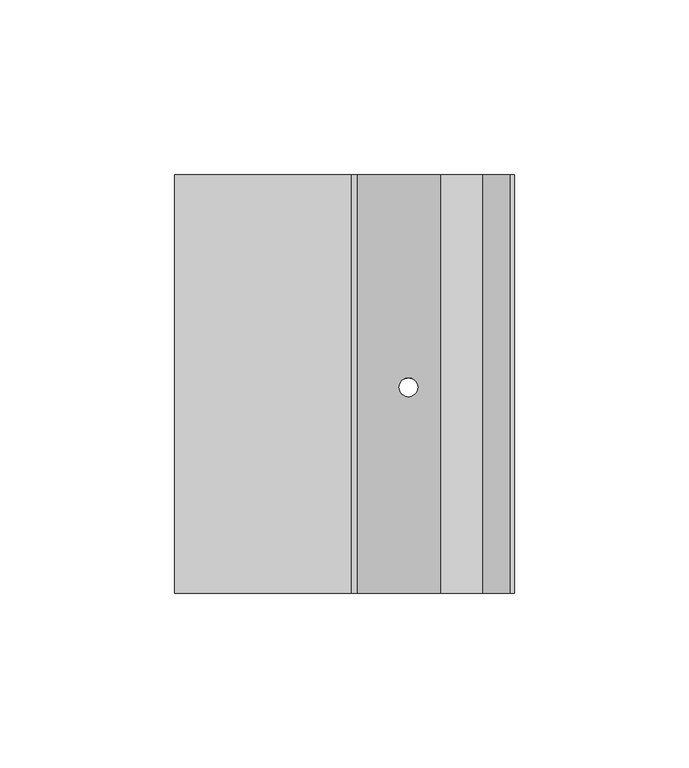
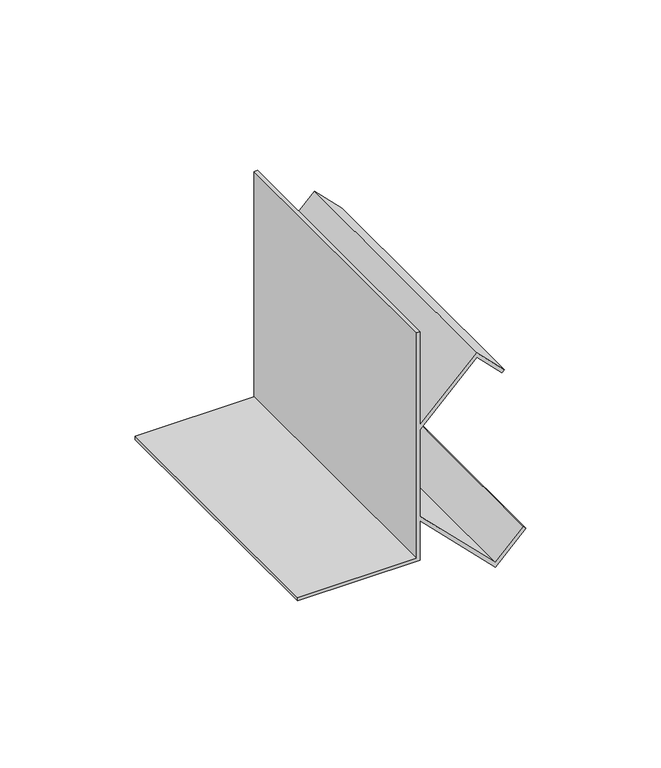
"""IFC4 building model written with IfcOpenShell, lengths in millimetres: proxy geometry, Mechanical Fittings & Accessories33 : Mechanical Fittings & Accessories."""

import ifcopenshell
import ifcopenshell.guid

model = None  # the IFC model being written
_history = None  # IfcOwnerHistory: only IFC2X3 demands one
_inside = {}  # id of a spatial element -> (the spatial element, [elements in it])
_under = {}  # id of a project, library or spatial element -> (it, [spatial elements below it])
_declared = {}  # id of a project -> (the project, [libraries it declares])
_typed = {}  # id of a type object -> (the type object, [elements of that type])
_made_of = {}  # id of a material, layer set ... -> (it, [elements and type objects made of it])


def new_model(schema):
    """Start an empty IFC model of exactly this schema.

    Asked for "IFC4X3", IfcOpenShell would pick the latest addendum, in which some entities
    have other attributes; the version numbers below select the first issue.
    IFC2X3 requires an IfcOwnerHistory on every rooted entity: one is made here for all.
    """
    global model, _history
    if schema == "IFC4X3":
        model = ifcopenshell.file(schema_version=(4, 3, 0, 0))
    else:
        model = ifcopenshell.file(schema=schema)
    _inside.clear()
    _under.clear()
    _declared.clear()
    _typed.clear()
    _made_of.clear()
    _history = None
    if model.schema == "IFC2X3":
        org = make("IfcOrganization", Name="unknown")
        user = make(
            "IfcPersonAndOrganization",
            ThePerson=make("IfcPerson", FamilyName="unknown"),
            TheOrganization=org,
        )
        app = make(
            "IfcApplication",
            ApplicationDeveloper=org,
            Version="unknown",
            ApplicationFullName="unknown",
            ApplicationIdentifier="unknown",
        )
        _history = make(
            "IfcOwnerHistory",
            OwningUser=user,
            OwningApplication=app,
            ChangeAction="ADDED",
            CreationDate=0,
        )
    return model


def make(cls, **values):
    """One entity of the class cls with the attributes given. An attribute that is None is left unset."""
    return model.create_entity(
        cls, **{name: value for name, value in values.items() if value is not None}
    )


def rooted(cls, **values):
    """An entity with a GlobalId (a new one), such as an element, a storey or a relation."""
    return make(cls, GlobalId=ifcopenshell.guid.new(), OwnerHistory=_history, **values)


def si_unit(unit_type, name, prefix=None):
    """IfcSIUnit, for example si_unit("LENGTHUNIT", "METRE", prefix="MILLI")."""
    return make("IfcSIUnit", UnitType=unit_type, Prefix=prefix, Name=name)


def assignment(units):
    """IfcUnitAssignment: the units of a project."""
    return None if units is None else make("IfcUnitAssignment", Units=units)


def point(xyz):
    """IfcCartesianPoint."""
    return None if xyz is None else make("IfcCartesianPoint", Coordinates=xyz)


def direction(xyz):
    """IfcDirection."""
    return None if xyz is None else make("IfcDirection", DirectionRatios=xyz)


def frame(location, z_axis=None, x_axis=None):
    """IfcAxis2Placement3D, a coordinate frame: its origin and axes. An axis left out is left unset."""
    return make(
        "IfcAxis2Placement3D",
        Location=point(location),
        Axis=direction(z_axis),
        RefDirection=direction(x_axis),
    )


def origin():
    """The frame at (0, 0, 0) with its axes left unset."""
    return frame((0.0, 0.0, 0.0))


def place(relative_to, where):
    """IfcLocalPlacement: puts the frame where relative to a parent placement (None: the world)."""
    return make(
        "IfcLocalPlacement", PlacementRelTo=relative_to, RelativePlacement=where
    )


def context(
    kind, dimensions, precision=None, world=None, true_north=None, identifier=None
):
    """IfcGeometricRepresentationContext, for example the 3D "Model" context."""
    return make(
        "IfcGeometricRepresentationContext",
        ContextIdentifier=identifier,
        ContextType=kind,
        CoordinateSpaceDimension=dimensions,
        Precision=precision,
        WorldCoordinateSystem=world,
        TrueNorth=true_north,
    )


def project(units=None, contexts=None):
    """IfcProject with its units and contexts."""
    return rooted(
        "IfcProject",
        Name="project",
        RepresentationContexts=contexts,
        UnitsInContext=assignment(units),
    )


def spatial(cls, under=None, at=None, **own):
    """A site, building, storey or space (cls), placed at a placement, below another one or the project."""
    s = rooted(cls, ObjectPlacement=at, **own)
    if under is not None:
        _under.setdefault(under.id(), (under, []))[1].append(s)
    return s


def polyline(points):
    """IfcPolyline through the points."""
    return make("IfcPolyline", Points=[point(p) for p in points])


def ellipse_curve(where, semi_axis1, semi_axis2):
    """IfcEllipse in the frame where."""
    return make(
        "IfcEllipse", Position=where, SemiAxis1=semi_axis1, SemiAxis2=semi_axis2
    )


def shape(context_of_items, identifier, shape_type, items):
    """IfcShapeRepresentation: the items that make up one representation, for example the "Body"."""
    return make(
        "IfcShapeRepresentation",
        ContextOfItems=context_of_items,
        RepresentationIdentifier=identifier,
        RepresentationType=shape_type,
        Items=items,
    )


def source(mapping_origin, context_of_items, identifier, shape_type, items):
    """IfcRepresentationMap: a shape defined once, which mapped items show again and again."""
    return make(
        "IfcRepresentationMap",
        MappingOrigin=mapping_origin,
        MappedRepresentation=shape(context_of_items, identifier, shape_type, items),
    )


def transform(
    local_origin,
    x_axis=None,
    y_axis=None,
    z_axis=None,
    scale=None,
    scale2=None,
    scale3=None,
    uniform=True,
):
    """IfcCartesianTransformationOperator3D, or its non-uniform kind. x_axis, y_axis, z_axis: its Axis1, 2, 3."""
    if uniform:
        return make(
            "IfcCartesianTransformationOperator3D",
            Axis1=direction(x_axis),
            Axis2=direction(y_axis),
            LocalOrigin=point(local_origin),
            Scale=scale,
            Axis3=direction(z_axis),
        )
    return make(
        "IfcCartesianTransformationOperator3DnonUniform",
        Axis1=direction(x_axis),
        Axis2=direction(y_axis),
        LocalOrigin=point(local_origin),
        Scale=scale,
        Axis3=direction(z_axis),
        Scale2=scale2,
        Scale3=scale3,
    )


def mapped(mapping_source, mapping_target):
    """IfcMappedItem: shows the shape of a source again, moved by a transform."""
    return make(
        "IfcMappedItem", MappingSource=mapping_source, MappingTarget=mapping_target
    )


def made_of(thing, what):
    """Note that an element or type object is made of a material, layer set ...; save() writes the relation."""
    if what is not None:
        _made_of.setdefault(what.id(), (what, []))[1].append(thing)
    return thing


def element(
    cls,
    number,
    at=None,
    inside=None,
    cuts=None,
    type_object=None,
    material=None,
    context=None,
    identifier="Body",
    shape_type=None,
    held_by="IfcProductDefinitionShape",
    body=None,
    shapes=None,
    **own,
):
    """One element of the class cls, such as IfcWall. Its Tag is "e" and its number.

    at: its placement. inside: the storey or other place that contains it. cuts: it is an
    opening in that element (IfcRelVoidsElement). A single representation is given by context,
    identifier, shape_type and body (its items); several are given by shapes. held_by: the class
    of the entity that holds the representations. save() writes the other relations.
    """
    e = rooted(cls, Tag="e%d" % number, ObjectPlacement=at, **own)
    if body is not None:
        shapes = [shape(context, identifier, shape_type, body)]
    if shapes is not None:
        e.Representation = make(held_by, Representations=shapes)
    if inside is not None:
        _inside.setdefault(inside.id(), (inside, []))[1].append(e)
    if cuts is not None:
        rooted(
            "IfcRelVoidsElement", RelatingBuildingElement=cuts, RelatedOpeningElement=e
        )
    if type_object is not None:
        _typed.setdefault(type_object.id(), (type_object, []))[1].append(e)
    return made_of(e, material)


def aggregate(whole, parts):
    """IfcRelAggregates: a whole, such as a stair, and the parts it consists of."""
    return rooted("IfcRelAggregates", RelatingObject=whole, RelatedObjects=parts)


def save(model, path):
    """Write the relations noted so far, then the file.

    IfcRelAggregates (storeys below a building ...), IfcRelContainedInSpatialStructure (elements
    in a storey), IfcRelDefinesByType, IfcRelAssociatesMaterial and IfcRelDeclares: one each for
    every whole, place, type object, material and project.
    """
    for whole, parts in _under.values():
        aggregate(whole, parts)
    for where, things in _inside.values():
        rooted(
            "IfcRelContainedInSpatialStructure",
            RelatedElements=things,
            RelatingStructure=where,
        )
    for kind, things in _typed.values():
        rooted("IfcRelDefinesByType", RelatedObjects=things, RelatingType=kind)
    for what, things in _made_of.values():
        rooted("IfcRelAssociatesMaterial", RelatedObjects=things, RelatingMaterial=what)
    for by, libraries in _declared.values():
        rooted("IfcRelDeclares", RelatingContext=by, RelatedDefinitions=libraries)
    model.write(path)


def plane_surface(at):
    """IfcPlane: the flat surface through the origin of the frame at, square to its z axis."""
    return make("IfcPlane", Position=at)


def revolved_surface(curve, axis_point, axis_direction):
    """IfcSurfaceOfRevolution: the curve turned about the line through axis_point along axis_direction."""
    return make(
        "IfcSurfaceOfRevolution",
        SweptCurve=make("IfcArbitraryOpenProfileDef", ProfileType="CURVE", Curve=curve),
        AxisPosition=make("IfcAxis1Placement", Location=point(axis_point), Axis=direction(axis_direction)),
    )


def advanced_brep(points, edges, surfaces, faces):
    """IfcAdvancedBrep: a solid bounded by faces that lie on surfaces and meet in shared edges.

    An edge is (start, end): straight between two places in points (the first is 0);
    or (start, end, curve); or (start, end, curve, False) where it runs against its curve.
    A face is (place in surfaces, loops), or (place, loops, False) where it looks against
    its surface's normal. A loop lists edges by number (the first is 1), with a minus sign
    where the edge is run from its end to its start. The first loop is the outer one.
    """
    corners = [point(p) for p in points]
    vertices = [make("IfcVertexPoint", VertexGeometry=c) for c in corners]
    made = []
    for start, end, *more in edges:
        made.append(
            make(
                "IfcEdgeCurve",
                EdgeStart=vertices[start],
                EdgeEnd=vertices[end],
                EdgeGeometry=more[0] if more else make("IfcPolyline", Points=[corners[start], corners[end]]),
                SameSense=more[1] if len(more) > 1 else True,
            )
        )
    hull = []
    for where, loops, *sense in faces:
        bounds = []
        for j, loop in enumerate(loops):
            ring = [make("IfcOrientedEdge", EdgeElement=made[abs(k) - 1], Orientation=k > 0) for k in loop]
            bounds.append(
                make(
                    "IfcFaceOuterBound" if j == 0 else "IfcFaceBound",
                    Bound=make("IfcEdgeLoop", EdgeList=ring),
                    Orientation=True,
                )
            )
        hull.append(make("IfcAdvancedFace", Bounds=bounds, FaceSurface=surfaces[where], SameSense=sense[0] if sense else True))
    return make("IfcAdvancedBrep", Outer=make("IfcClosedShell", CfsFaces=hull))


def generic_models_ac5d71cc(model_context):
    return source(origin(), model_context, "Body", "AdvancedBrep", [
        advanced_brep(
        [(-14670.9639562, 3322.4963986, 4114.8), (-14721.7639562, 3322.4963986, 4114.8), (-14721.7639562, 3322.4963986, 4113.3117188), (-14669.475675, 3322.4963986, 4113.3117188), (-14669.475675, 3322.4963986, 4131.1383509), (-14637.365914, 3322.4963986, 4099.0285899), (-14624.3869427, 3322.4963986, 4112.0075612), (-14625.4393164, 3322.4963986, 4113.059935), (-14637.365914, 3322.4963986, 4101.1333374), (-14669.475675, 3322.4963986, 4133.2430984), (-14669.475675, 3322.4963986, 4172.2761118), (-14645.303414, 3322.4963986, 4196.4483729), (-14634.5674414, 3322.4963986, 4185.7124003), (-14633.5150677, 3322.4963986, 4186.7647741), (-14645.303414, 3322.4963986, 4198.5531204), (-14669.475675, 3322.4963986, 4174.3808594), (-14669.475675, 3322.4963986, 4216.4), (-14670.9639562, 3322.4963986, 4216.4), (-14670.9639562, 3442.4645457, 4114.8), (-14670.9639562, 3442.4645457, 4216.4), (-14669.475675, 3442.4645457, 4216.4), (-14669.475675, 3442.4645457, 4174.3808594), (-14645.303414, 3442.4645457, 4198.5531204), (-14633.5150677, 3442.4645457, 4186.7647741), (-14634.5674414, 3442.4645457, 4185.7124003), (-14645.303414, 3442.4645457, 4196.4483729), (-14669.475675, 3442.4645457, 4172.2761118), (-14669.475675, 3442.4645457, 4133.2430984), (-14637.365914, 3442.4645457, 4101.1333374), (-14625.4393164, 3442.4645457, 4113.059935), (-14624.3869427, 3442.4645457, 4112.0075612), (-14637.365914, 3442.4645457, 4099.0285899), (-14669.475675, 3442.4645457, 4131.1383509), (-14669.475675, 3442.4645457, 4113.3117188), (-14721.7639562, 3442.4645457, 4113.3117188), (-14721.7639562, 3442.4645457, 4114.8), (-14657.3617646, 3381.5191481, 4119.0244406), (-14652.0223978, 3381.5191481, 4113.6850737), (-14652.0223978, 3381.5191481, 4115.7898213), (-14657.3617646, 3381.5191481, 4121.1291881), (-14657.3617646, 3381.5191481, 4184.3900222), (-14652.0223978, 3381.5191481, 4189.729389), (-14652.0223978, 3381.5191481, 4191.8341365), (-14657.3617646, 3381.5191481, 4186.4947697)],
        [
            (0, 1),
            (1, 2),
            (2, 3),
            (3, 4),
            (4, 5),
            (5, 6),
            (6, 7),
            (7, 8),
            (8, 9),
            (9, 10),
            (10, 11),
            (11, 12),
            (12, 13),
            (13, 14),
            (14, 15),
            (15, 16),
            (16, 17),
            (17, 0),
            (18, 19),
            (19, 20),
            (20, 21),
            (21, 22),
            (22, 23),
            (23, 24),
            (24, 25),
            (25, 26),
            (26, 27),
            (27, 28),
            (28, 29),
            (29, 30),
            (30, 31),
            (31, 32),
            (32, 33),
            (33, 34),
            (34, 35),
            (35, 18),
            (0, 18),
            (35, 1),
            (34, 2),
            (33, 3),
            (32, 4),
            (31, 5),
            (36, 37, ellipse_curve(frame((-14654.6920812, 3381.5191481, 4116.3547571), z_axis=(0.7071067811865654, 0.0, 0.7071067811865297), x_axis=(-0.7071067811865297, 0.0, 0.7071067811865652)), 3.7755025, 2.6696834)),
            (37, 36, ellipse_curve(frame((-14654.6920812, 3381.5191481, 4116.3547571), z_axis=(0.7071067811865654, 0.0, 0.7071067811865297), x_axis=(-0.7071067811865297, 0.0, 0.7071067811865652)), 3.7755025, 2.6696834)),
            (30, 6),
            (29, 7),
            (28, 8),
            (27, 9),
            (38, 39, ellipse_curve(frame((-14654.6920812, 3381.5191481, 4118.4595047), z_axis=(-0.7071067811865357, 0.0, -0.7071067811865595), x_axis=(-0.7071067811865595, 0.0, 0.7071067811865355)), 3.7755025, 2.6696834)),
            (39, 38, ellipse_curve(frame((-14654.6920812, 3381.5191481, 4118.4595047), z_axis=(-0.7071067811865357, 0.0, -0.7071067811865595), x_axis=(-0.7071067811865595, 0.0, 0.7071067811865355)), 3.7755025, 2.6696834)),
            (26, 10),
            (25, 11),
            (40, 41, ellipse_curve(frame((-14654.6920812, 3381.5191481, 4187.0597056), z_axis=(-0.7071067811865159, 0.0, 0.7071067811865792), x_axis=(0.7071067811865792, 0.0, 0.7071067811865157)), 3.7755025, 2.6696834)),
            (41, 40, ellipse_curve(frame((-14654.6920812, 3381.5191481, 4187.0597056), z_axis=(-0.7071067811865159, 0.0, 0.7071067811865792), x_axis=(0.7071067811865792, 0.0, 0.7071067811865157)), 3.7755025, 2.6696834)),
            (24, 12),
            (23, 13),
            (22, 14),
            (21, 15),
            (42, 43, ellipse_curve(frame((-14654.6920812, 3381.5191481, 4189.1644531), z_axis=(0.7071067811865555, 0.0, -0.7071067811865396), x_axis=(0.7071067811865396, 0.0, 0.7071067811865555)), 3.7755025, 2.6696834)),
            (43, 42, ellipse_curve(frame((-14654.6920812, 3381.5191481, 4189.1644531), z_axis=(0.7071067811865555, 0.0, -0.7071067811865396), x_axis=(0.7071067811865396, 0.0, 0.7071067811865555)), 3.7755025, 2.6696834)),
            (20, 16),
            (19, 17),
            (36, 39),
            (38, 37),
            (40, 43),
            (42, 41),
        ],
        [
            plane_surface(frame((-14721.7639562, 3322.4963986, 4114.8), z_axis=(0.0, -1.0, 0.0), x_axis=(-1.0, 0.0, 0.0))),
            plane_surface(frame((-14721.7639562, 3442.4645457, 4114.8), z_axis=(0.0, 1.0, 0.0), x_axis=(1.0, 0.0, 0.0))),
            plane_surface(frame((-14670.9639562, 3322.4963986, 4114.8), z_axis=(0.0, 0.0, 1.0), x_axis=(0.0, 1.0, 0.0))),
            plane_surface(frame((-14721.7639562, 3322.4963986, 4114.8), z_axis=(-1.0, 0.0, 0.0), x_axis=(0.0, 1.0, 0.0))),
            plane_surface(frame((-14721.7639562, 3322.4963986, 4113.3117188), z_axis=(0.0, 0.0, -1.0), x_axis=(0.0, 1.0, 0.0))),
            plane_surface(frame((-14669.475675, 3322.4963986, 4113.3117188), z_axis=(1.0, 0.0, 0.0), x_axis=(0.0, 1.0, 0.0))),
            plane_surface(frame((-14669.475675, 3322.4963986, 4131.1383509), z_axis=(-0.7071067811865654, 0.0, -0.7071067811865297), x_axis=(0.0, 1.0, 0.0))),
            plane_surface(frame((-14637.365914, 3322.4963986, 4099.0285899), z_axis=(0.7071067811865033, 0.0, -0.7071067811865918), x_axis=(0.0, 1.0, 0.0))),
            plane_surface(frame((-14624.3869427, 3322.4963986, 4112.0075612), z_axis=(0.7071067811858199, 0.0, 0.7071067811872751), x_axis=(0.0, 1.0, 0.0))),
            plane_surface(frame((-14625.4393164, 3322.4963986, 4113.059935), z_axis=(-0.7071067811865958, 0.0, 0.7071067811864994), x_axis=(0.0, 1.0, 0.0))),
            plane_surface(frame((-14637.365914, 3322.4963986, 4101.1333374), z_axis=(0.7071067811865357, 0.0, 0.7071067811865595), x_axis=(0.0, 1.0, 0.0))),
            plane_surface(frame((-14669.475675, 3322.4963986, 4133.2430984), z_axis=(1.0, 0.0, 0.0), x_axis=(0.0, 1.0, 0.0))),
            plane_surface(frame((-14669.475675, 3322.4963986, 4172.2761118), z_axis=(0.7071067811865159, 0.0, -0.7071067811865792), x_axis=(0.0, 1.0, 0.0))),
            plane_surface(frame((-14645.303414, 3322.4963986, 4196.4483729), z_axis=(-0.7071067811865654, 0.0, -0.7071067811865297), x_axis=(0.0, 1.0, 0.0))),
            plane_surface(frame((-14634.5674414, 3322.4963986, 4185.7124003), z_axis=(0.7071067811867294, 0.0, -0.7071067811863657), x_axis=(0.0, 1.0, 0.0))),
            plane_surface(frame((-14633.5150677, 3322.4963986, 4186.7647741), z_axis=(0.7071067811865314, 0.0, 0.7071067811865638), x_axis=(0.0, 1.0, 0.0))),
            plane_surface(frame((-14645.303414, 3322.4963986, 4198.5531204), z_axis=(-0.7071067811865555, 0.0, 0.7071067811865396), x_axis=(0.0, 1.0, 0.0))),
            plane_surface(frame((-14669.475675, 3322.4963986, 4174.3808594), z_axis=(1.0, 0.0, 0.0), x_axis=(0.0, 1.0, 0.0))),
            plane_surface(frame((-14669.475675, 3322.4963986, 4216.4), z_axis=(0.0, 0.0, 1.0), x_axis=(0.0, 1.0, 0.0))),
            plane_surface(frame((-14670.9639562, 3322.4963986, 4216.4), z_axis=(-1.0, 0.0, 0.0), x_axis=(0.0, 1.0, 0.0))),
            revolved_surface(polyline([(-14652.022397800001, 3381.5191481, 4121.129188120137), (-14652.022397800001, 3381.5191481, 4113.685073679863)]), (-14654.6920812, 3381.5191481, 4097.2034211), (0.0, 0.0, 1.0)),
            revolved_surface(polyline([(-14652.022397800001, 3381.5191481, 4191.834136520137), (-14652.022397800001, 3381.5191481, 4184.390022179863)]), (-14654.6920812, 3381.5191481, 4097.2034211), (0.0, 0.0, 1.0)),
        ],
        [
            (0, [[1, 2, 3, 4, 5, 6, 7, 8, 9, 10, 11, 12, 13, 14, 15, 16, 17, 18]]),
            (1, [[19, 20, 21, 22, 23, 24, 25, 26, 27, 28, 29, 30, 31, 32, 33, 34, 35, 36]]),
            (2, [[-1, 37, -36, 38]]),
            (3, [[-2, -38, -35, 39]]),
            (4, [[-3, -39, -34, 40]]),
            (5, [[-4, -40, -33, 41]]),
            (6, [[-5, -41, -32, 42], [43, 44]]),
            (7, [[-6, -42, -31, 45]]),
            (8, [[-7, -45, -30, 46]]),
            (9, [[-8, -46, -29, 47]]),
            (10, [[-9, -47, -28, 48], [49, 50]]),
            (11, [[-10, -48, -27, 51]]),
            (12, [[-11, -51, -26, 52], [53, 54]]),
            (13, [[-12, -52, -25, 55]]),
            (14, [[-13, -55, -24, 56]]),
            (15, [[-14, -56, -23, 57]]),
            (16, [[-15, -57, -22, 58], [59, 60]]),
            (17, [[-16, -58, -21, 61]]),
            (18, [[-17, -61, -20, 62]]),
            (19, [[-18, -62, -19, -37]]),
            (20, [[63, -49, 64, -43]]),
            (21, [[65, -59, 66, -53]]),
            (20, [[-63, -44, -64, -50]]),
            (21, [[-65, -54, -66, -60]]),
        ],
    ),
    ])


if __name__ == "__main__":
    model = new_model("IFC4")
    model_context = context("Model", 3, world=origin())
    ifc_project = project(units=[si_unit("LENGTHUNIT", "METRE", prefix="MILLI")], contexts=[model_context])
    site = spatial("IfcSite", under=ifc_project)
    building = spatial("IfcBuilding", under=site)
    placement = place(None, origin())
    generic_models_shape = generic_models_ac5d71cc(model_context)
    element("IfcBuildingElementProxy", 1, Name="Mechanical Fittings & Accessories33 : Mechanical Fittings & Accessories", ObjectType="Mechanical Fittings & Accessories33 : Mechanical Fittings & Accessories", at=placement, inside=building, context=model_context, shape_type="MappedRepresentation", body=[
        mapped(generic_models_shape, transform((0.0, 0.0, 0.0), x_axis=(1.0, 0.0, 0.0), y_axis=(0.0, 1.0, 0.0), z_axis=(0.0, 0.0, 1.0))),
    ])
    save(model, "model.ifc")
